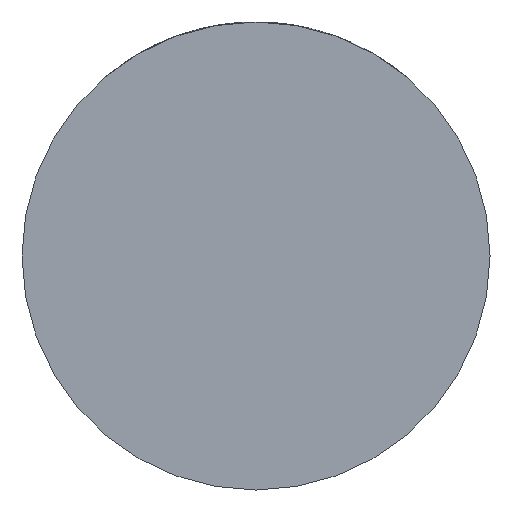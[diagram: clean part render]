
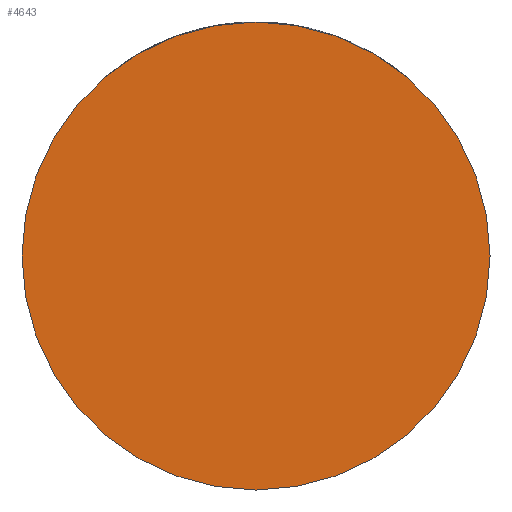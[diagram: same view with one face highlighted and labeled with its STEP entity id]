
A CAD part, front view. The second image highlights one B-rep face of the part: STEP entity #4643.
In plain terms, the highlighted planar face has unit normal (0, -1, 0).
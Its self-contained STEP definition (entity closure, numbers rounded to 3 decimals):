
#275 = DIRECTION ( 'NONE',  ( 1., 0., 0. ) ) ;
#570 = VERTEX_POINT ( 'NONE', #588 ) ;
#588 = CARTESIAN_POINT ( 'NONE',  ( -49., -45., 0. ) ) ;
#881 = DIRECTION ( 'NONE',  ( 1., 0., 0. ) ) ;
#906 = ORIENTED_EDGE ( 'NONE', *, *, #3441, .T. ) ;
#1233 = CARTESIAN_POINT ( 'NONE',  ( 0., -45., 0. ) ) ;
#1432 = CIRCLE ( 'NONE', #3315, 49. ) ;
#1446 = EDGE_CURVE ( 'NONE', #570, #4339, #2719, .T. ) ;
#1674 = ORIENTED_EDGE ( 'NONE', *, *, #1446, .T. ) ;
#2530 = DIRECTION ( 'NONE',  ( 0., -1., 0. ) ) ;
#2682 = EDGE_LOOP ( 'NONE', ( #1674, #906 ) ) ;
#2719 = CIRCLE ( 'NONE', #3835, 49. ) ;
#2825 = CARTESIAN_POINT ( 'NONE',  ( 0., -45., 0. ) ) ;
#2936 = DIRECTION ( 'NONE',  ( 1., 0., 0. ) ) ;
#3244 = CARTESIAN_POINT ( 'NONE',  ( 49., -45., 0. ) ) ;
#3315 = AXIS2_PLACEMENT_3D ( 'NONE', #3607, #2530, #2936 ) ;
#3330 = AXIS2_PLACEMENT_3D ( 'NONE', #1233, #4094, #881 ) ;
#3372 = FACE_OUTER_BOUND ( 'NONE', #2682, .T. ) ;
#3441 = EDGE_CURVE ( 'NONE', #4339, #570, #1432, .T. ) ;
#3607 = CARTESIAN_POINT ( 'NONE',  ( 0., -45., 0. ) ) ;
#3805 = DIRECTION ( 'NONE',  ( 0., -1., 0. ) ) ;
#3835 = AXIS2_PLACEMENT_3D ( 'NONE', #2825, #3805, #275 ) ;
#4094 = DIRECTION ( 'NONE',  ( 0., -1., 0. ) ) ;
#4339 = VERTEX_POINT ( 'NONE', #3244 ) ;
#4446 = PLANE ( 'NONE',  #3330 ) ;
#4643 = ADVANCED_FACE ( 'NONE', ( #3372 ), #4446, .T. ) ;
